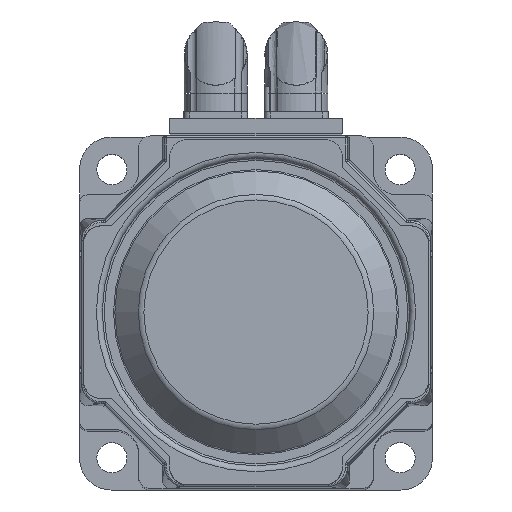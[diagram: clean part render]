
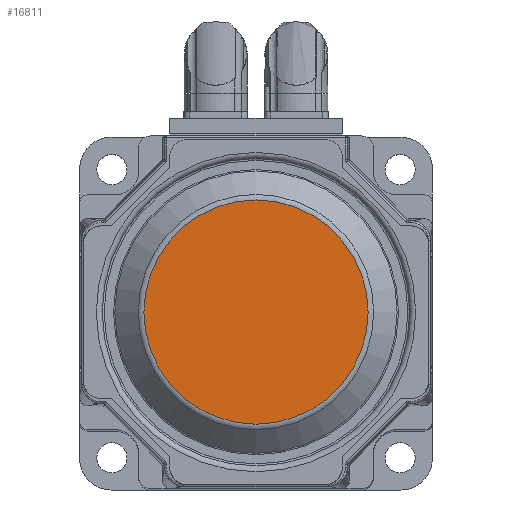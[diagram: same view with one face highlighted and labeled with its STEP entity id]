
A CAD part, top view. The second image highlights one B-rep face of the part: STEP entity #16811.
In plain terms, the highlighted planar face has unit normal (0, 0, 1).
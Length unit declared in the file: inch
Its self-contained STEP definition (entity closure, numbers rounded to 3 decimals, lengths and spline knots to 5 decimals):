
#16791=CARTESIAN_POINT('',(0.0,1.78622,1.69));
#16792=VERTEX_POINT('',#16791);
#16793=CARTESIAN_POINT('',(0.0,0.0,1.69));
#16794=DIRECTION('',(0.0,0.0,-1.0));
#16795=DIRECTION('',(0.0,1.0,0.0));
#16796=AXIS2_PLACEMENT_3D('',#16793,#16794,#16795);
#16797=CIRCLE('',#16796,1.78622);
#16798=EDGE_CURVE('',#16792,#16792,#16797,.T.);
#16803=CARTESIAN_POINT('',(0.0,0.89311,1.69));
#16804=DIRECTION('',(0.0,0.0,1.0));
#16805=DIRECTION('',(1.0,0.0,0.0));
#16806=AXIS2_PLACEMENT_3D('',#16803,#16804,#16805);
#16807=PLANE('',#16806);
#16808=ORIENTED_EDGE('',*,*,#16798,.F.);
#16809=EDGE_LOOP('',(#16808));
#16810=FACE_OUTER_BOUND('',#16809,.T.);
#16811=ADVANCED_FACE('',(#16810),#16807,.T.);
